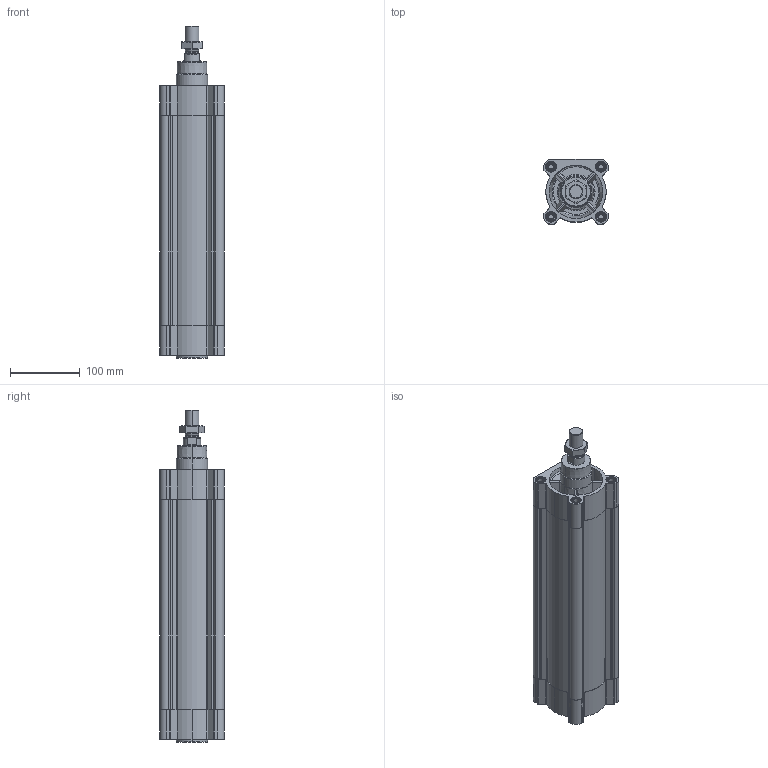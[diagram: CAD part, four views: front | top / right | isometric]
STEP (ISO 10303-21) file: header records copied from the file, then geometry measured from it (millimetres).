
FILE_DESCRIPTION (( 'STEP AP203' ), '1' );
FILE_NAME ('CPME80-260.STEP', '2023-03-30T13:23:31', ( '' ), ( '' ), 'SwSTEP 2.0', 'SolidWorks 2019', '' );
FILE_SCHEMA (( 'CONFIG_CONTROL_DESIGN' ));
Length unit declared in the file: millimetre
Products named in the file (1): CPME80-260
Bounding box: 93 x 93 x 477.6 mm (x, y, z)
Volume: 1607696.1 mm3; surface area: 373626.3 mm2
Topology: 3 solids, 3 shells, 533 faces, 1359 edges, 870 vertices
Faces by surface type: plane 207, cylinder 200, cone 98, torus 28
Entity records: 18683 total; most frequent: CARTESIAN_POINT 5639, DIRECTION 2751, ORIENTED_EDGE 2718, EDGE_CURVE 1359, AXIS2_PLACEMENT_3D 1049, VERTEX_POINT 870, LINE 653, VECTOR 653
